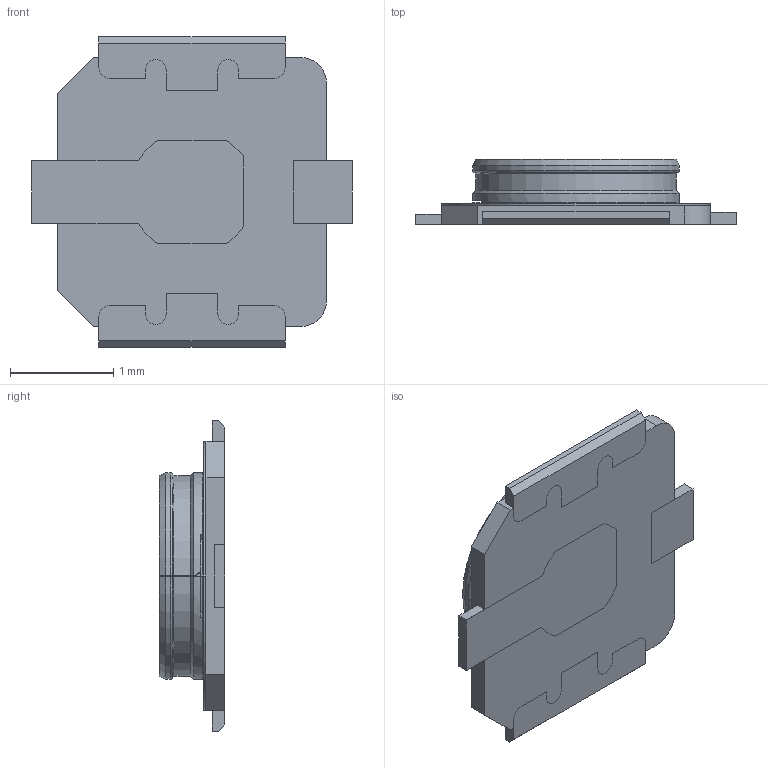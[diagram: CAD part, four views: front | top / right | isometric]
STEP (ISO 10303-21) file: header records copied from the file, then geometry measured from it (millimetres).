
FILE_DESCRIPTION (( 'STEP AP203' ), '1' );
FILE_NAME ('20429C RECEPTACLE STEP R2 ALL.STEP', '2018-12-12T05:12:23', ( '' ), ( '' ), 'SwSTEP 2.0', 'SolidWorks 2017', '' );
FILE_SCHEMA (( 'CONFIG_CONTROL_DESIGN' ));
Length unit declared in the file: millimetre
Products named in the file (1): 20429C RECEPTACLE STEP R2 ALL
Bounding box: 3.1 x 0.63 x 3 mm (x, y, z)
Surface area: 26 mm2 (no closed solid volume)
Topology: 0 solids, 5 shells, 83 faces, 250 edges, 176 vertices
Faces by surface type: plane 48, cylinder 19, cone 9, torus 7
Entity records: 2991 total; most frequent: CARTESIAN_POINT 651, DIRECTION 472, ORIENTED_EDGE 457, EDGE_CURVE 250, VERTEX_POINT 176, AXIS2_PLACEMENT_3D 158, VECTOR 156, LINE 156
